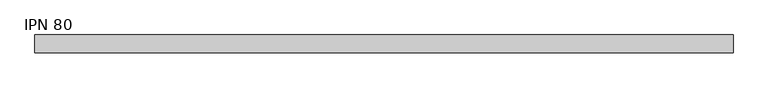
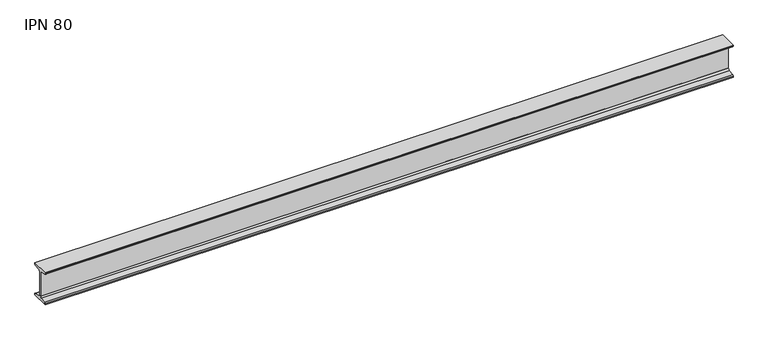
"""IFC4 building model written with IfcOpenShell, lengths in millimetres: beam geometry, IPN - Secciones en I con alas cónicas : IPN 80."""

from ifc_helpers import new_model, si_unit, point, frame, frame_2d, origin, place, context, project, spatial, polyline, circle_curve, trimmed, segment, composite_curve, outline, extrude, source, transform, mapped, element, save


def ipn_80_ac8313dd(model_context):
    return source(origin(), model_context, "Body", "SweptSolid", [
        extrude(outline(composite_curve([segment(polyline([(21.0, 40.0), (21.0, 37.5704306)]), True, "CONTINUOUS"), segment(trimmed(circle_curve(frame_2d((18.7, 37.5704306)), 2.3), [point((21.0, 37.5704306))], [point((19.01889, 35.2926446))], False, "CARTESIAN"), True, "CONTINUOUS"), segment(polyline([(19.01889, 35.2926446), (5.3092734, 33.3732983)]), True, "CONTINUOUS"), segment(trimmed(circle_curve(frame_2d((5.85, 29.5109655)), 3.9), [point((5.3092734, 33.3732983))], [point((1.95, 29.5109655))], True, "CARTESIAN"), True, "CONTINUOUS"), segment(polyline([(1.95, 29.5109655), (1.95, -29.5109655)]), True, "CONTINUOUS"), segment(trimmed(circle_curve(frame_2d((5.85, -29.5109655)), 3.9), [point((1.95, -29.5109655))], [point((5.3092734, -33.3732983))], True, "CARTESIAN"), True, "CONTINUOUS"), segment(polyline([(5.3092734, -33.3732983), (19.01889, -35.2926446)]), True, "CONTINUOUS"), segment(trimmed(circle_curve(frame_2d((18.7, -37.5704306)), 2.3), [point((19.01889, -35.2926446))], [point((21.0, -37.5704306))], False, "CARTESIAN"), True, "CONTINUOUS"), segment(polyline([(21.0, -37.5704306), (21.0, -40.0), (-21.0, -40.0), (-21.0, -37.5704306)]), True, "CONTINUOUS"), segment(trimmed(circle_curve(frame_2d((-18.7, -37.5704306)), 2.3), [point((-21.0, -37.5704306))], [point((-19.01889, -35.2926446))], False, "CARTESIAN"), True, "CONTINUOUS"), segment(polyline([(-19.01889, -35.2926446), (-5.3092734, -33.3732983)]), True, "CONTINUOUS"), segment(trimmed(circle_curve(frame_2d((-5.85, -29.5109655)), 3.9), [point((-5.3092734, -33.3732983))], [point((-1.95, -29.5109655))], True, "CARTESIAN"), True, "CONTINUOUS"), segment(polyline([(-1.95, -29.5109655), (-1.95, 29.5109655)]), True, "CONTINUOUS"), segment(trimmed(circle_curve(frame_2d((-5.85, 29.5109655)), 3.9), [point((-1.95, 29.5109655))], [point((-5.3092734, 33.3732983))], True, "CARTESIAN"), True, "CONTINUOUS"), segment(polyline([(-5.3092734, 33.3732983), (-19.01889, 35.2926446)]), True, "CONTINUOUS"), segment(trimmed(circle_curve(frame_2d((-18.7, 37.5704306)), 2.3), [point((-19.01889, 35.2926446))], [point((-21.0, 37.5704306))], False, "CARTESIAN"), True, "CONTINUOUS"), segment(polyline([(-21.0, 37.5704306), (-21.0, 40.0), (21.0, 40.0)]), True, "CONTINUOUS")], self_intersect=False)), frame((-815.0, 0.0, 0.0), z_axis=(1.0, 0.0, 0.0), x_axis=(0.0, 1.0, 0.0)), (0.0, 0.0, 1.0), 1630.0),
    ])


if __name__ == "__main__":
    model = new_model("IFC4")
    model_context = context("Model", 3, world=origin())
    ifc_project = project(units=[si_unit("LENGTHUNIT", "METRE", prefix="MILLI")], contexts=[model_context])
    site = spatial("IfcSite", under=ifc_project)
    building = spatial("IfcBuilding", under=site)
    placement = place(None, origin())
    ipn_80_shape = ipn_80_ac8313dd(model_context)
    element("IfcBeam", 1, ObjectType="IPN - Secciones en I con alas cónicas : IPN 80", at=placement, inside=building, context=model_context, shape_type="MappedRepresentation", body=[
        mapped(ipn_80_shape, transform((0.0, 0.0, 0.0), x_axis=(1.0, 0.0, 0.0), y_axis=(0.0, 1.0, 0.0), z_axis=(0.0, 0.0, 1.0))),
    ])
    save(model, "model.ifc")
